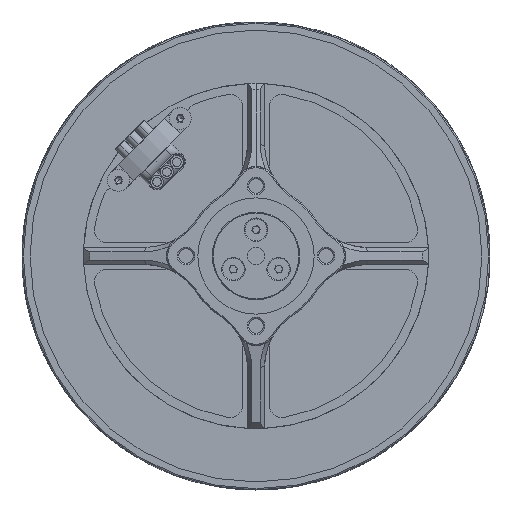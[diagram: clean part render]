
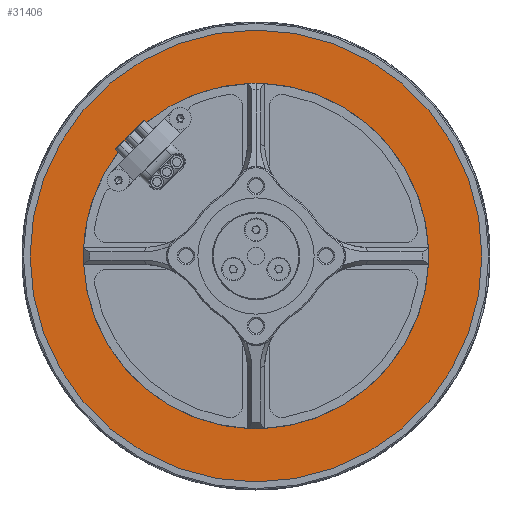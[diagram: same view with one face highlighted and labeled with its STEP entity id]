
A CAD part, front view. The second image highlights one B-rep face of the part: STEP entity #31406.
In plain terms, the highlighted planar face has unit normal (0, -1, 0).
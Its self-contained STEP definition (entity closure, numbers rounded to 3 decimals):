
#1192 = EDGE_CURVE ( 'NONE', #26340, #44246, #74463, .T. ) ;
#2356 = CARTESIAN_POINT ( 'NONE',  ( 0., 6.9, 39.5 ) ) ;
#2697 = EDGE_LOOP ( 'NONE', ( #83613, #70850, #83801, #43072, #79240, #53806, #61552, #16594, #6709, #14407, #3787, #48172, #85487, #73718 ) ) ;
#2753 = CARTESIAN_POINT ( 'NONE',  ( 0., 6.9, -39.5 ) ) ;
#3094 = LINE ( 'NONE', #66794, #47628 ) ;
#3628 = DIRECTION ( 'NONE',  ( 0.709, 0., -0.706 ) ) ;
#3787 = ORIENTED_EDGE ( 'NONE', *, *, #72813, .F. ) ;
#4761 = EDGE_CURVE ( 'NONE', #5273, #48054, #3094, .T. ) ;
#5273 = VERTEX_POINT ( 'NONE', #43578 ) ;
#5297 = EDGE_LOOP ( 'NONE', ( #86337, #53525 ) ) ;
#6694 = CIRCLE ( 'NONE', #44161, 39.5 ) ;
#6709 = ORIENTED_EDGE ( 'NONE', *, *, #1192, .F. ) ;
#7877 = CIRCLE ( 'NONE', #49806, 51.7 ) ;
#8928 = PLANE ( 'NONE',  #31672 ) ;
#10240 = DIRECTION ( 'NONE',  ( 0., 0., -1. ) ) ;
#11059 = CIRCLE ( 'NONE', #63410, 51.7 ) ;
#11239 = CARTESIAN_POINT ( 'NONE',  ( -28.358, 6.9, 28.24 ) ) ;
#12725 = VERTEX_POINT ( 'NONE', #60561 ) ;
#14045 = CARTESIAN_POINT ( 'NONE',  ( -31.473, 6.9, 23.869 ) ) ;
#14407 = ORIENTED_EDGE ( 'NONE', *, *, #55728, .T. ) ;
#14884 = DIRECTION ( 'NONE',  ( 0., -1., 0. ) ) ;
#15650 = VERTEX_POINT ( 'NONE', #47172 ) ;
#15919 = VERTEX_POINT ( 'NONE', #64895 ) ;
#16594 = ORIENTED_EDGE ( 'NONE', *, *, #45760, .T. ) ;
#16699 = VERTEX_POINT ( 'NONE', #73529 ) ;
#19851 = CARTESIAN_POINT ( 'NONE',  ( -29.836, 6.9, 26.755 ) ) ;
#21697 = CARTESIAN_POINT ( 'NONE',  ( -32.094, 6.9, 24.488 ) ) ;
#23046 = VERTEX_POINT ( 'NONE', #26672 ) ;
#24045 = CARTESIAN_POINT ( 'NONE',  ( -25.21, 6.9, 30.409 ) ) ;
#24617 = CIRCLE ( 'NONE', #51472, 39.5 ) ;
#25740 = CARTESIAN_POINT ( 'NONE',  ( -32.094, 6.9, 24.488 ) ) ;
#26340 = VERTEX_POINT ( 'NONE', #35330 ) ;
#26661 = EDGE_CURVE ( 'NONE', #15650, #72243, #90606, .T. ) ;
#26672 = CARTESIAN_POINT ( 'NONE',  ( -29.428, 6.9, 26.348 ) ) ;
#27372 = EDGE_CURVE ( 'NONE', #5273, #15919, #58202, .T. ) ;
#29114 = FACE_BOUND ( 'NONE', #2697, .T. ) ;
#29866 = VERTEX_POINT ( 'NONE', #84916 ) ;
#30490 = CARTESIAN_POINT ( 'NONE',  ( 0., 6.9, 0. ) ) ;
#31406 = ADVANCED_FACE ( 'NONE', ( #29114, #73066 ), #8928, .T. ) ;
#31672 = AXIS2_PLACEMENT_3D ( 'NONE', #30490, #51063, #57644 ) ;
#32241 = DIRECTION ( 'NONE',  ( 0., -1., 0. ) ) ;
#32571 = CARTESIAN_POINT ( 'NONE',  ( 0., 6.9, 0. ) ) ;
#33397 = CARTESIAN_POINT ( 'NONE',  ( -29.836, 6.9, 26.755 ) ) ;
#35330 = CARTESIAN_POINT ( 'NONE',  ( -30.222, 6.9, 26.368 ) ) ;
#37800 = CARTESIAN_POINT ( 'NONE',  ( 0., 6.9, 0. ) ) ;
#39044 = EDGE_CURVE ( 'NONE', #16699, #48054, #47521, .T. ) ;
#39797 = LINE ( 'NONE', #25740, #48271 ) ;
#39918 = DIRECTION ( 'NONE',  ( 0., 0., -1. ) ) ;
#40732 = DIRECTION ( 'NONE',  ( 0.709, 0., -0.706 ) ) ;
#41469 = AXIS2_PLACEMENT_3D ( 'NONE', #32571, #61078, #89647 ) ;
#43072 = ORIENTED_EDGE ( 'NONE', *, *, #59269, .T. ) ;
#43147 = CARTESIAN_POINT ( 'NONE',  ( 0., 6.9, 0. ) ) ;
#43578 = CARTESIAN_POINT ( 'NONE',  ( -27.199, 6.9, 28.644 ) ) ;
#44161 = AXIS2_PLACEMENT_3D ( 'NONE', #60779, #52371, #10240 ) ;
#44246 = VERTEX_POINT ( 'NONE', #21697 ) ;
#45760 = EDGE_CURVE ( 'NONE', #91761, #44246, #39797, .T. ) ;
#46008 = CARTESIAN_POINT ( 'NONE',  ( 0., 6.9, 0. ) ) ;
#46079 = VECTOR ( 'NONE', #46372, 1000. ) ;
#46135 = EDGE_CURVE ( 'NONE', #12725, #29866, #7877, .T. ) ;
#46372 = DIRECTION ( 'NONE',  ( -0.706, 0., -0.709 ) ) ;
#46495 = VERTEX_POINT ( 'NONE', #2356 ) ;
#47172 = CARTESIAN_POINT ( 'NONE',  ( -27.964, 6.9, 28.635 ) ) ;
#47469 = EDGE_CURVE ( 'NONE', #23046, #72243, #49752, .T. ) ;
#47521 = LINE ( 'NONE', #75132, #63699 ) ;
#47628 = VECTOR ( 'NONE', #60675, 1000. ) ;
#47756 = LINE ( 'NONE', #76296, #59727 ) ;
#48054 = VERTEX_POINT ( 'NONE', #61695 ) ;
#48172 = ORIENTED_EDGE ( 'NONE', *, *, #47469, .T. ) ;
#48271 = VECTOR ( 'NONE', #70176, 1000. ) ;
#49279 = EDGE_CURVE ( 'NONE', #29866, #12725, #11059, .T. ) ;
#49752 = LINE ( 'NONE', #33397, #79710 ) ;
#49806 = AXIS2_PLACEMENT_3D ( 'NONE', #46008, #89513, #39918 ) ;
#51063 = DIRECTION ( 'NONE',  ( 0., -1., 0. ) ) ;
#51472 = AXIS2_PLACEMENT_3D ( 'NONE', #43147, #70288, #85726 ) ;
#51803 = VERTEX_POINT ( 'NONE', #24045 ) ;
#52371 = DIRECTION ( 'NONE',  ( 0., -1., 0. ) ) ;
#53525 = ORIENTED_EDGE ( 'NONE', *, *, #46135, .F. ) ;
#53806 = ORIENTED_EDGE ( 'NONE', *, *, #80403, .F. ) ;
#55728 = EDGE_CURVE ( 'NONE', #26340, #82924, #79367, .T. ) ;
#57644 = DIRECTION ( 'NONE',  ( 0., 0., -1. ) ) ;
#58202 = CIRCLE ( 'NONE', #89598, 39.5 ) ;
#58583 = CIRCLE ( 'NONE', #80960, 39.5 ) ;
#59269 = EDGE_CURVE ( 'NONE', #16699, #51803, #47756, .T. ) ;
#59727 = VECTOR ( 'NONE', #40732, 1000. ) ;
#60561 = CARTESIAN_POINT ( 'NONE',  ( 51.7, 6.9, 0. ) ) ;
#60675 = DIRECTION ( 'NONE',  ( -0.709, 0., 0.706 ) ) ;
#60779 = CARTESIAN_POINT ( 'NONE',  ( 0., 6.9, 0. ) ) ;
#61078 = DIRECTION ( 'NONE',  ( 0., -1., 0. ) ) ;
#61552 = ORIENTED_EDGE ( 'NONE', *, *, #73590, .F. ) ;
#61695 = CARTESIAN_POINT ( 'NONE',  ( -27.578, 6.9, 29.023 ) ) ;
#63410 = AXIS2_PLACEMENT_3D ( 'NONE', #37800, #74741, #80375 ) ;
#63578 = VECTOR ( 'NONE', #3628, 1000. ) ;
#63699 = VECTOR ( 'NONE', #83067, 1000. ) ;
#64033 = DIRECTION ( 'NONE',  ( 0., 0., -1. ) ) ;
#64895 = CARTESIAN_POINT ( 'NONE',  ( -27.592, 6.9, 28.265 ) ) ;
#66794 = CARTESIAN_POINT ( 'NONE',  ( -27.578, 6.9, 29.023 ) ) ;
#67773 = CARTESIAN_POINT ( 'NONE',  ( -27.964, 6.9, 28.635 ) ) ;
#70176 = DIRECTION ( 'NONE',  ( -0.709, 0., 0.706 ) ) ;
#70288 = DIRECTION ( 'NONE',  ( 0., -1., 0. ) ) ;
#70850 = ORIENTED_EDGE ( 'NONE', *, *, #4761, .T. ) ;
#71446 = DIRECTION ( 'NONE',  ( 0.709, 0., -0.706 ) ) ;
#72243 = VERTEX_POINT ( 'NONE', #19851 ) ;
#72744 = CARTESIAN_POINT ( 'NONE',  ( -29.791, 6.9, 25.938 ) ) ;
#72813 = EDGE_CURVE ( 'NONE', #23046, #82924, #24617, .T. ) ;
#73066 = FACE_OUTER_BOUND ( 'NONE', #5297, .T. ) ;
#73529 = CARTESIAN_POINT ( 'NONE',  ( -25.706, 6.9, 30.903 ) ) ;
#73590 = EDGE_CURVE ( 'NONE', #91761, #73625, #6694, .T. ) ;
#73625 = VERTEX_POINT ( 'NONE', #2753 ) ;
#73718 = ORIENTED_EDGE ( 'NONE', *, *, #74658, .T. ) ;
#74463 = LINE ( 'NONE', #11239, #46079 ) ;
#74658 = EDGE_CURVE ( 'NONE', #15650, #15919, #75748, .T. ) ;
#74741 = DIRECTION ( 'NONE',  ( 0., 1., 0. ) ) ;
#75132 = CARTESIAN_POINT ( 'NONE',  ( -28.358, 6.9, 28.24 ) ) ;
#75288 = CARTESIAN_POINT ( 'NONE',  ( 0., 6.9, 0. ) ) ;
#75748 = LINE ( 'NONE', #67773, #63578 ) ;
#76296 = CARTESIAN_POINT ( 'NONE',  ( -25.706, 6.9, 30.903 ) ) ;
#76563 = DIRECTION ( 'NONE',  ( -0.706, 0., -0.709 ) ) ;
#77575 = VECTOR ( 'NONE', #76563, 1000. ) ;
#79240 = ORIENTED_EDGE ( 'NONE', *, *, #84335, .F. ) ;
#79367 = LINE ( 'NONE', #92497, #87649 ) ;
#79710 = VECTOR ( 'NONE', #83460, 1000. ) ;
#80375 = DIRECTION ( 'NONE',  ( 0., 0., -1. ) ) ;
#80403 = EDGE_CURVE ( 'NONE', #73625, #46495, #87749, .T. ) ;
#80960 = AXIS2_PLACEMENT_3D ( 'NONE', #75288, #32241, #82751 ) ;
#82751 = DIRECTION ( 'NONE',  ( 0., 0., -1. ) ) ;
#82924 = VERTEX_POINT ( 'NONE', #72744 ) ;
#83067 = DIRECTION ( 'NONE',  ( -0.706, 0., -0.709 ) ) ;
#83460 = DIRECTION ( 'NONE',  ( -0.709, 0., 0.706 ) ) ;
#83613 = ORIENTED_EDGE ( 'NONE', *, *, #27372, .F. ) ;
#83801 = ORIENTED_EDGE ( 'NONE', *, *, #39044, .F. ) ;
#84048 = CARTESIAN_POINT ( 'NONE',  ( -28.358, 6.9, 28.24 ) ) ;
#84335 = EDGE_CURVE ( 'NONE', #46495, #51803, #58583, .T. ) ;
#84916 = CARTESIAN_POINT ( 'NONE',  ( -51.7, 6.9, 0. ) ) ;
#85487 = ORIENTED_EDGE ( 'NONE', *, *, #26661, .F. ) ;
#85726 = DIRECTION ( 'NONE',  ( 0., 0., -1. ) ) ;
#86337 = ORIENTED_EDGE ( 'NONE', *, *, #49279, .F. ) ;
#87649 = VECTOR ( 'NONE', #71446, 1000. ) ;
#87749 = CIRCLE ( 'NONE', #41469, 39.5 ) ;
#89513 = DIRECTION ( 'NONE',  ( 0., 1., 0. ) ) ;
#89598 = AXIS2_PLACEMENT_3D ( 'NONE', #91198, #14884, #64033 ) ;
#89647 = DIRECTION ( 'NONE',  ( 0., 0., -1. ) ) ;
#90606 = LINE ( 'NONE', #84048, #77575 ) ;
#91198 = CARTESIAN_POINT ( 'NONE',  ( 0., 6.9, 0. ) ) ;
#91761 = VERTEX_POINT ( 'NONE', #14045 ) ;
#92497 = CARTESIAN_POINT ( 'NONE',  ( -30.222, 6.9, 26.368 ) ) ;
